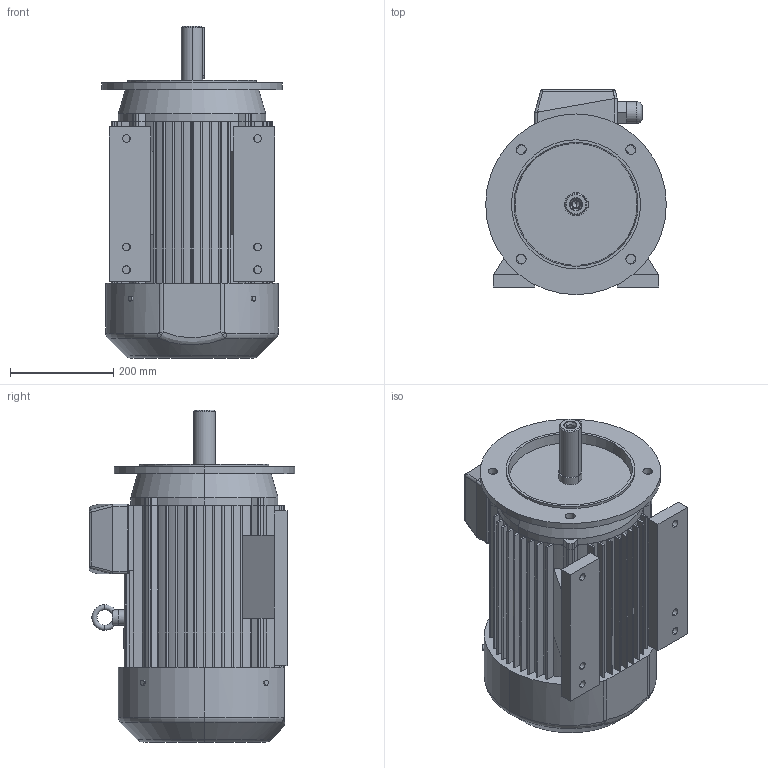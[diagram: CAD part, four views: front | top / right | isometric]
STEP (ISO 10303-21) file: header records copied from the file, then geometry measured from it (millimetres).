
FILE_DESCRIPTION (( 'STEP AP203' ), '1' );
FILE_NAME ('3SIEL160L.STEP', '2014-10-01T06:57:02', ( '' ), ( '' ), 'SwSTEP 2.0', 'SolidWorks 2003064', '' );
FILE_SCHEMA (( 'CONFIG_CONTROL_DESIGN' ));
Length unit declared in the file: millimetre
Products named in the file (1): 3SIEL160L
Bounding box: 350 x 398 x 643 mm (x, y, z)
Volume: 41200678.6 mm3; surface area: 1602155.2 mm2
Topology: 16 solids, 16 shells, 426 faces, 1103 edges, 705 vertices
Faces by surface type: cylinder 193, plane 191, torus 17, cone 16, bspline 5, sphere 4
Entity records: 16127 total; most frequent: CARTESIAN_POINT 5395, DIRECTION 2319, ORIENTED_EDGE 2190, EDGE_CURVE 1095, AXIS2_PLACEMENT_3D 843, VERTEX_POINT 705, VECTOR 633, LINE 633
